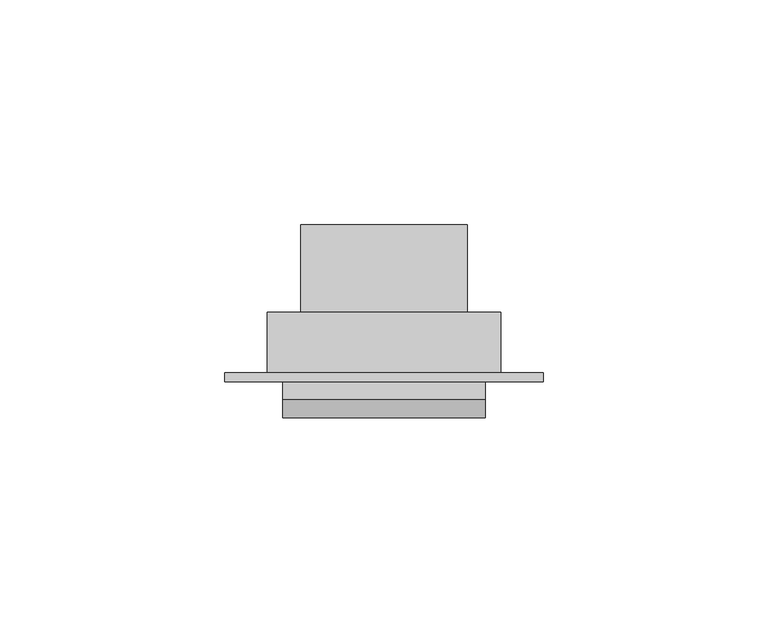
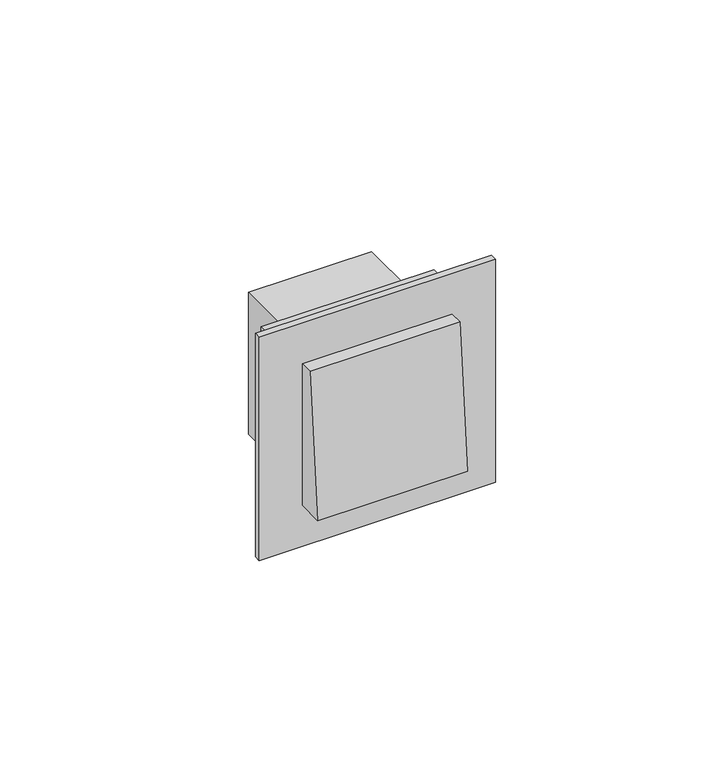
"""IFC4 building model written with IfcOpenShell, lengths in millimetres: proxy geometry."""

from ifc_helpers import new_model, si_unit, frame, origin, place, context, project, spatial, polyline, outline, extrude, faceted_brep, source, transform, mapped, element, save


def electrical_fixtures_e782fb80(model_context):
    return source(origin(), model_context, "Body", "SolidModel", [
        extrude(outline(polyline([(-40.7, 22.5), (-36.7, 22.5), (-36.7, -22.5), (-44.7, -22.5), (-40.7, 22.5)])), frame((-22.5, 0.0, 0.0), z_axis=(1.0, 0.0, 0.0), x_axis=(0.0, 1.0, 0.0)), (0.0, 0.0, 1.0), 45.0),
        faceted_brep([(35.45, -34.7, -35.45), (-35.45, -34.7, -35.45), (-35.45, -34.7, 35.45), (35.45, -34.7, 35.45), (-26.0, -34.7, -26.0), (26.0, -34.7, -26.0), (26.0, -34.7, 26.0), (-26.0, -34.7, 26.0), (35.45, -36.7, -35.45), (35.45, -36.7, 35.45), (-35.45, -36.7, 35.45), (-35.45, -36.7, -35.45), (26.0, -21.2, -26.0), (-26.0, -21.2, -26.0), (-26.0, -21.2, 26.0), (26.0, -21.2, 26.0), (-18.5, -21.2, -22.5), (18.5, -21.2, -22.5), (18.5, -21.2, 22.5), (-18.5, -21.2, 22.5), (18.5, -1.7, -22.5), (-18.5, -1.7, -22.5), (-18.5, -1.7, 22.5), (18.5, -1.7, 22.5)], [[[0, 1, 2, 3], [4, 5, 6, 7]], [[8, 9, 10, 11]], [[1, 0, 8, 11]], [[2, 1, 11, 10]], [[3, 2, 10, 9]], [[0, 3, 9, 8]], [[12, 13, 14, 15], [16, 17, 18, 19]], [[13, 12, 5, 4]], [[14, 13, 4, 7]], [[15, 14, 7, 6]], [[12, 15, 6, 5]], [[20, 21, 22, 23]], [[21, 20, 17, 16]], [[22, 21, 16, 19]], [[23, 22, 19, 18]], [[20, 23, 18, 17]]]),
    ])


if __name__ == "__main__":
    model = new_model("IFC4")
    model_context = context("Model", 3, world=origin())
    ifc_project = project(units=[si_unit("LENGTHUNIT", "METRE", prefix="MILLI")], contexts=[model_context])
    site = spatial("IfcSite", under=ifc_project)
    building = spatial("IfcBuilding", under=site)
    placement = place(None, origin())
    electrical_fixtures_shape = electrical_fixtures_e782fb80(model_context)
    element("IfcBuildingElementProxy", 1, Name="Electrical Fixtures", at=placement, inside=building, context=model_context, shape_type="MappedRepresentation", body=[
        mapped(electrical_fixtures_shape, transform((0.0, 0.0, 0.0), x_axis=(1.0, 0.0, 0.0), y_axis=(0.0, 1.0, 0.0), z_axis=(0.0, 0.0, 1.0))),
    ])
    save(model, "model.ifc")
